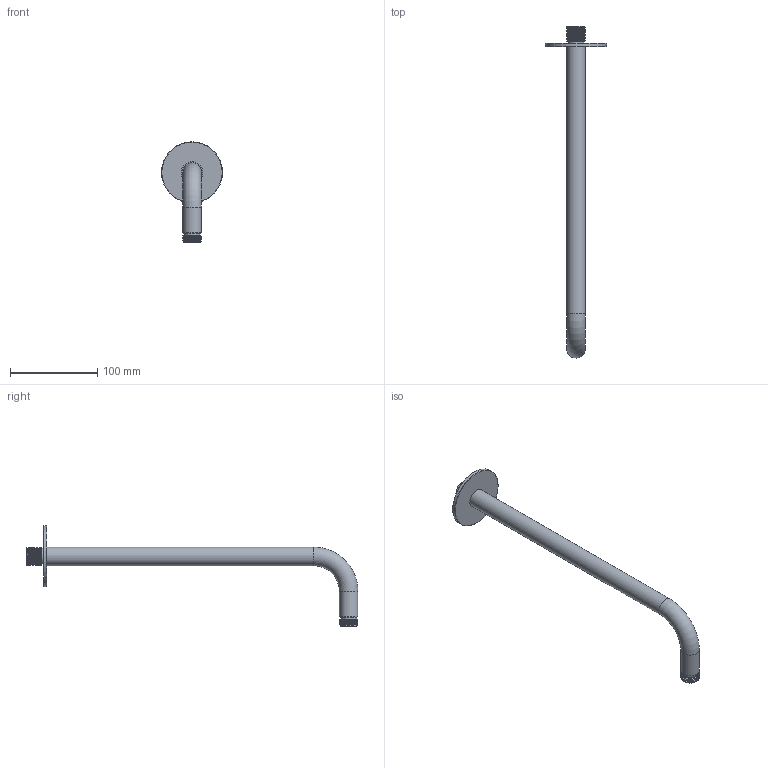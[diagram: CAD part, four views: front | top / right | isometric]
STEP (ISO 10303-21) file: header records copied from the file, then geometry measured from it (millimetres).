
FILE_DESCRIPTION(/* description */ ('Unknown'),/* implementation_level */ '2;1');
FILE_NAME(/* name */ 'RE053',/* time_stamp */ '2023-10-30T08:18:41+01:00',/* author */ ('Unknown'),/* organization */ ('Unknown'),/* preprocessor_version */ 'ST-DEVELOPER v18.102',/* originating_system */ 'Solid Edge',/* authorisation */ 'Unknown');
FILE_SCHEMA (('AUTOMOTIVE_DESIGN {1 0 10303 214 3 1 1}'));
Length unit declared in the file: millimetre
Products named in the file (4): RE053; RE053-01; RE036-02; OR-20.35x1.78
Assembly tree (3 placements, depth 2):
  RE053
    RE053-01
    RE036-02
    OR-20.35x1.78
Bounding box: 70 x 380.65 x 115 mm (x, y, z)
Volume: 79459.4 mm3; surface area: 60937.9 mm2
Topology: 3 solids, 3 shells, 51 faces, 116 edges, 73 vertices
Faces by surface type: bspline 15, cylinder 13, plane 10, cone 8, torus 5
Full cylindrical faces by diameter (mm): 16 x2, 18.6 x2, 21.3 x2, 21.5 x1, 24.6 x1, 70 x1
Entity records: 4593 total; most frequent: CARTESIAN_POINT 3576, ORIENTED_EDGE 180, DIRECTION 154, EDGE_CURVE 90, FACE_BOUND 77, EDGE_LOOP 76, AXIS2_PLACEMENT_3D 76, VERTEX_POINT 67
